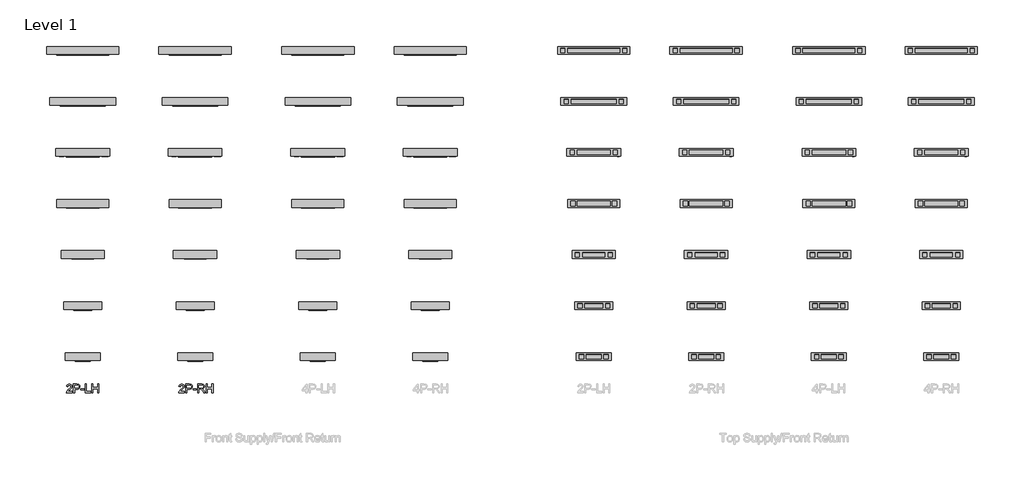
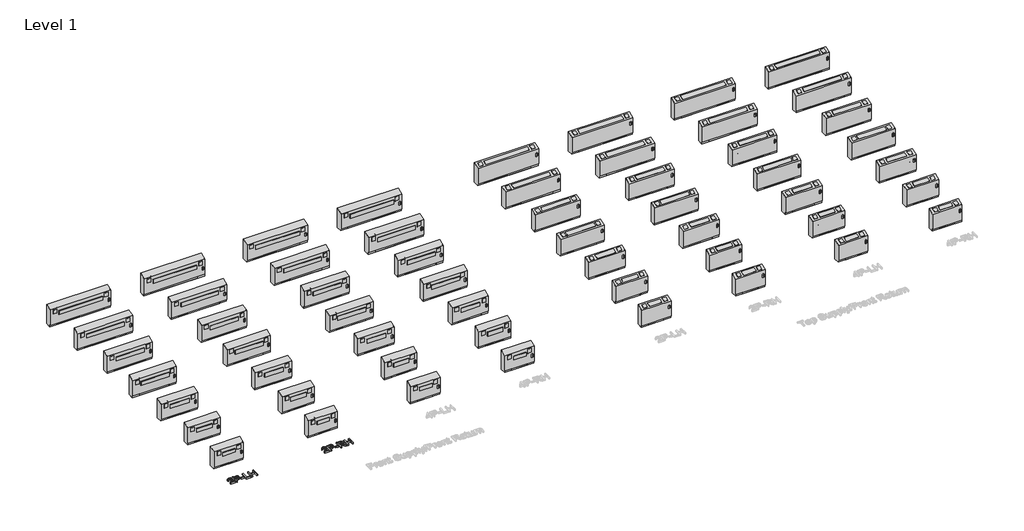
# One storey, part 1 of 3: 58 proxies.
"""IFC4 building model written with IfcOpenShell, lengths in millimetres."""

from ifc_helpers import new_model, si_unit, origin, origin_with_axes, place, context, project, spatial, polyline, outline, extrude, transform, mapped, element, save
from components import fsa_02_9984ac0a, fsa_02_ccaf9f36, fsa_02_239d5f07, fsa_02_a3f02086, fsa_02_a3f4d55f, fsa_02_dba83e95, fsa_02_3f852c0d, fsa_02_00a29073, fsa_03_38f2a992, fsa_03_0998f7d8, fsa_03_30d9e35f, fsa_03_15f4ee76, fsa_03_9eb38b45, fsa_03_bbf9bb24, fsa_03_7127c263, fsa_03_6adf4142, fsa_04_7151d022, fsa_04_9fea3f96, fsa_04_1a2f1526, fsa_04_b2a41085, fsa_04_9fa2f48e, fsa_04_fa0adc46, fsa_04_c0b1d56f, fsa_04_2e9a2c6c, fsa_06_cc0eff2d, fsa_06_d963093d, fsa_06_33f85111, fsa_06_bd2dc38c, fsa_06_9042caff, fsa_06_450f022d, fsa_06_36126f74, fsa_06_753d8a43, fsa_08_6ecd86e4, fsa_08_34fc3663, fsa_08_aebe8db0, fsa_08_8c7590da, fsa_08_331cdd5b, fsa_08_b623f187, fsa_08_8577ad06, fsa_08_1c3113d7, fsa_10_823466e5, fsa_10_5b307017, fsa_10_9be13929, fsa_10_1add2491, fsa_10_67577d47, fsa_10_9e433b3c, fsa_10_13eb66bb, fsa_10_1d2db063, fsa_12_a108baa8, fsa_12_98031c45, fsa_12_8d8f7d14, fsa_12_46d8cc71, fsa_12_32ce60d5, fsa_12_e42ce63e, fsa_12_fc2f0c06, fsa_12_ab068744

model = new_model("IFC4")

# Units and contexts
model_context = context("Model", 3, world=origin())
ifc_project = project(units=[si_unit("LENGTHUNIT", "METRE", prefix="MILLI")], contexts=[model_context])

# Site, building, storey
site = spatial("IfcSite", under=ifc_project)
building = spatial("IfcBuilding", under=site)
storey = spatial("IfcBuildingStorey", under=building, Name="Level 1", Elevation=0.0)

# Proxies
placement = place(None, origin())
element("IfcBuildingElementProxy", 1, Name="24\" Arial", ObjectType="24\" Arial", at=placement, inside=storey, context=model_context, shape_type="SweptSolid", body=[
    extrude(outline(polyline([(-19722.253563, -2259.538898), (-19722.253563, -2291.4337764), (-19889.701675, -2291.4337764), (-19886.2754673, -2269.4437528), (-19878.4107634, -2252.2582067), (-19866.9018205, -2235.5865918), (-19826.9709277, -2198.6146965), (-19792.5531145, -2168.0435801), (-19771.9024266, -2145.4773306), (-19761.5770826, -2127.1626934), (-19758.1353013, -2109.3464136), (-19761.3824117, -2093.3756138), (-19771.123743, -2080.0990592), (-19786.0978278, -2071.1519851), (-19805.0431987, -2068.1696271), (-19824.9385636, -2071.0819036), (-19840.3954322, -2079.8187331), (-19850.3703686, -2093.6948741), (-19853.8199367, -2112.025085), (-19885.7148152, -2108.0382252), (-19877.9824875, -2077.1867827), (-19861.2641515, -2054.6516806), (-19836.4319329, -2040.8689816), (-19804.3579572, -2036.2747487), (-19772.0503764, -2041.3829128), (-19747.2648788, -2056.7074052), (-19731.4965368, -2079.6007017), (-19726.2404228, -2107.4152784), (-19731.9092391, -2137.6593477), (-19750.7533812, -2168.9312793), (-19796.4465323, -2212.6310005), (-19833.1381014, -2243.3111326), (-19847.5281736, -2259.538898), (-19722.253563, -2259.538898)])), origin_with_axes(), (0.0, 0.0, 1.0), 50.8),
    extrude(outline(polyline([(-19678.3981051, -2291.4337764), (-19678.3981051, -2036.2747487), (-19583.834774, -2036.2747487), (-19545.7104271, -2038.7042414), (-19528.7117651, -2043.2439665), (-19514.7188215, -2050.6336734), (-19503.4512705, -2061.2081961), (-19494.6287858, -2075.3023685), (-19488.9288222, -2091.9272624), (-19487.0288343, -2110.0939498), (-19492.1603589, -2140.1667088), (-19507.5549328, -2165.2247456), (-19519.8834402, -2175.0906663), (-19536.3428639, -2182.1377525), (-19556.9332038, -2186.3660042), (-19581.6544601, -2187.7754214), (-19646.5032266, -2187.7754214), (-19646.5032266, -2291.4337764), (-19678.3981051, -2291.4337764)]), holes=[polyline([(-19646.5032266, -2155.8805429), (-19579.7856195, -2155.8805429), (-19551.5038327, -2152.9526928), (-19532.8154274, -2144.1691422), (-19522.3966414, -2130.0749699), (-19518.9237127, -2111.2152541), (-19520.9716505, -2096.8874767), (-19527.1154638, -2084.8023079), (-19536.5920426, -2075.707284), (-19548.6382773, -2070.3499411), (-19580.5331557, -2068.1696271), (-19646.5032266, -2068.1696271), (-19646.5032266, -2155.8805429)])]), origin_with_axes(), (0.0, 0.0, 1.0), 50.8),
    extrude(outline(polyline([(-19463.1076754, -2215.6834401), (-19463.1076754, -2183.7885616), (-19363.4361802, -2183.7885616), (-19363.4361802, -2215.6834401), (-19463.1076754, -2215.6834401)])), origin_with_axes(), (0.0, 0.0, 1.0), 50.8),
    extrude(outline(polyline([(-19323.5675821, -2291.4337764), (-19323.5675821, -2036.2747487), (-19291.6727036, -2036.2747487), (-19291.6727036, -2259.538898), (-19164.0931897, -2259.538898), (-19164.0931897, -2291.4337764), (-19323.5675821, -2291.4337764)])), origin_with_axes(), (0.0, 0.0, 1.0), 50.8),
    extrude(outline(polyline([(-19128.2114515, -2291.4337764), (-19128.2114515, -2036.2747487), (-19096.316573, -2036.2747487), (-19096.316573, -2139.9331037), (-18960.7633395, -2139.9331037), (-18960.7633395, -2036.2747487), (-18928.868461, -2036.2747487), (-18928.868461, -2291.4337764), (-18960.7633395, -2291.4337764), (-18960.7633395, -2171.8279822), (-19096.316573, -2171.8279822), (-19096.316573, -2291.4337764), (-19128.2114515, -2291.4337764)])), origin_with_axes(), (0.0, 0.0, 1.0), 50.8),
])
element("IfcBuildingElementProxy", 2, Name="24\" Arial", ObjectType="24\" Arial", at=placement, inside=storey, context=model_context, shape_type="SweptSolid", body=[
    extrude(outline(polyline([(-16368.5749359, -2259.538898), (-16368.5749359, -2291.4337764), (-16536.0230479, -2291.4337764), (-16532.5968402, -2269.4437528), (-16524.7321363, -2252.2582067), (-16513.2231934, -2235.5865918), (-16473.2923006, -2198.6146965), (-16438.8744874, -2168.0435801), (-16418.2237995, -2145.4773306), (-16407.8984555, -2127.1626934), (-16404.4566742, -2109.3464136), (-16407.7037846, -2093.3756138), (-16417.4451159, -2080.0990592), (-16432.4192007, -2071.1519851), (-16451.3645716, -2068.1696271), (-16471.2599365, -2071.0819036), (-16486.7168051, -2079.8187331), (-16496.6917415, -2093.6948741), (-16500.1413096, -2112.025085), (-16532.0361881, -2108.0382252), (-16524.3038604, -2077.1867827), (-16507.5855244, -2054.6516806), (-16482.7533058, -2040.8689816), (-16450.6793301, -2036.2747487), (-16418.3717494, -2041.3829128), (-16393.5862517, -2056.7074052), (-16377.8179097, -2079.6007017), (-16372.5617957, -2107.4152784), (-16378.230612, -2137.6593477), (-16397.0747541, -2168.9312793), (-16442.7679052, -2212.6310005), (-16479.4594744, -2243.3111326), (-16493.8495465, -2259.538898), (-16368.5749359, -2259.538898)])), origin_with_axes(), (0.0, 0.0, 1.0), 50.8),
    extrude(outline(polyline([(-16324.719478, -2291.4337764), (-16324.719478, -2036.2747487), (-16230.1561469, -2036.2747487), (-16192.0318, -2038.7042414), (-16175.033138, -2043.2439665), (-16161.0401944, -2050.6336734), (-16149.7726434, -2061.2081961), (-16140.9501587, -2075.3023685), (-16135.2501951, -2091.9272624), (-16133.3502072, -2110.0939498), (-16138.4817318, -2140.1667088), (-16153.8763057, -2165.2247456), (-16166.2048131, -2175.0906663), (-16182.6642368, -2182.1377525), (-16203.2545768, -2186.3660042), (-16227.975833, -2187.7754214), (-16292.8245995, -2187.7754214), (-16292.8245995, -2291.4337764), (-16324.719478, -2291.4337764)]), holes=[polyline([(-16292.8245995, -2155.8805429), (-16226.1069924, -2155.8805429), (-16197.8252057, -2152.9526928), (-16179.1368003, -2144.1691422), (-16168.7180143, -2130.0749699), (-16165.2450857, -2111.2152541), (-16167.2930234, -2096.8874767), (-16173.4368367, -2084.8023079), (-16182.9134155, -2075.707284), (-16194.9596502, -2070.3499411), (-16226.8545286, -2068.1696271), (-16292.8245995, -2068.1696271), (-16292.8245995, -2155.8805429)])]), origin_with_axes(), (0.0, 0.0, 1.0), 50.8),
    extrude(outline(polyline([(-16109.4290483, -2215.6834401), (-16109.4290483, -2183.7885616), (-16009.7575531, -2183.7885616), (-16009.7575531, -2215.6834401), (-16109.4290483, -2215.6834401)])), origin_with_axes(), (0.0, 0.0, 1.0), 50.8),
    extrude(outline(polyline([(-15969.888955, -2291.4337764), (-15969.888955, -2036.2747487), (-15859.9388368, -2036.2747487), (-15830.3877959, -2037.9956393), (-15808.8883429, -2043.1583113), (-15793.1745087, -2052.689398), (-15780.9803242, -2067.5155329), (-15773.1545545, -2085.9002517), (-15770.5459646, -2106.10709), (-15774.8676583, -2131.2429952), (-15787.8327395, -2152.0805672), (-15809.83055, -2167.3583385), (-15841.2504315, -2175.814842), (-15823.1226783, -2189.4573779), (-15797.2703842, -2222.2866766), (-15754.7231147, -2291.4337764), (-15791.788452, -2291.4337764), (-15824.9915188, -2238.5455893), (-15848.9749724, -2203.5359766), (-15865.8256845, -2186.9967378), (-15880.9944402, -2180.9230061), (-15899.4959615, -2179.8017018), (-15937.9940765, -2179.8017018), (-15937.9940765, -2291.4337764), (-15969.888955, -2291.4337764)]), holes=[polyline([(-15937.9940765, -2147.9068233), (-15866.6043681, -2147.9068233), (-15830.193125, -2143.3904587), (-15818.2169719, -2137.5191847), (-15809.5112897, -2128.9380919), (-15804.2084547, -2118.5582401), (-15802.440843, -2107.290689), (-15805.8125428, -2091.7325915), (-15815.9276422, -2079.1957863), (-15833.3312197, -2070.9261669), (-15858.5683538, -2068.1696271), (-15937.9940765, -2068.1696271), (-15937.9940765, -2147.9068233)])]), origin_with_axes(), (0.0, 0.0, 1.0), 50.8),
    extrude(outline(polyline([(-15714.7299272, -2291.4337764), (-15714.7299272, -2036.2747487), (-15682.8350488, -2036.2747487), (-15682.8350488, -2139.9331037), (-15547.2818152, -2139.9331037), (-15547.2818152, -2036.2747487), (-15515.3869368, -2036.2747487), (-15515.3869368, -2291.4337764), (-15547.2818152, -2291.4337764), (-15547.2818152, -2171.8279822), (-15682.8350488, -2171.8279822), (-15682.8350488, -2291.4337764), (-15714.7299272, -2291.4337764)])), origin_with_axes(), (0.0, 0.0, 1.0), 50.8),
])
fsa_02_shape = fsa_02_9984ac0a(model_context)
element("IfcBuildingElementProxy", 3, Name="Vertical_Fan_Coil_Unit_-_FSA_-_IEC_-_2-Pipe_FS-FR_LH_2022 : FSA 02", ObjectType="Vertical_Fan_Coil_Unit_-_FSA_-_IEC_-_2-Pipe_FS-FR_LH_2022 : FSA 02", at=placement, inside=storey, context=model_context, shape_type="MappedRepresentation", body=[
    mapped(fsa_02_shape, transform((-19554.2915851, -1346.7031597, 0.0), x_axis=(1.0, 0.0, 0.0), y_axis=(0.0, 1.0, 0.0), z_axis=(0.0, 0.0, 1.0))),
])
fsa_02_2_shape = fsa_02_ccaf9f36(model_context)
element("IfcBuildingElementProxy", 4, Name="Vertical_Fan_Coil_Unit_-_FSA_-_IEC_-_2-Pipe_FS-FR_RH_2022 : FSA 02", ObjectType="Vertical_Fan_Coil_Unit_-_FSA_-_IEC_-_2-Pipe_FS-FR_RH_2022 : FSA 02", at=placement, inside=storey, context=model_context, shape_type="MappedRepresentation", body=[
    mapped(fsa_02_2_shape, transform((-16201.4915851, -1346.7031597, 0.0), x_axis=(1.0, 0.0, 0.0), y_axis=(0.0, 1.0, 0.0), z_axis=(0.0, 0.0, 1.0))),
])
fsa_02_3_shape = fsa_02_239d5f07(model_context)
element("IfcBuildingElementProxy", 5, Name="Vertical_Fan_Coil_Unit_-_FSA_-_IEC_-_4-Pipe_FS-FR_LH_2022 : FSA 02", ObjectType="Vertical_Fan_Coil_Unit_-_FSA_-_IEC_-_4-Pipe_FS-FR_LH_2022 : FSA 02", at=placement, inside=storey, context=model_context, shape_type="MappedRepresentation", body=[
    mapped(fsa_02_3_shape, transform((-12543.8915851, -1346.7031597, 0.0), x_axis=(1.0, 0.0, 0.0), y_axis=(0.0, 1.0, 0.0), z_axis=(0.0, 0.0, 1.0))),
])
fsa_02_4_shape = fsa_02_a3f02086(model_context)
element("IfcBuildingElementProxy", 6, Name="Vertical_Fan_Coil_Unit_-_FSA_-_IEC_-_4-Pipe_FS-FR_RH_2022 : FSA 02", ObjectType="Vertical_Fan_Coil_Unit_-_FSA_-_IEC_-_4-Pipe_FS-FR_RH_2022 : FSA 02", at=placement, inside=storey, context=model_context, shape_type="MappedRepresentation", body=[
    mapped(fsa_02_4_shape, transform((-9191.0915851, -1346.7031597, 0.0), x_axis=(1.0, 0.0, 0.0), y_axis=(0.0, 1.0, 0.0), z_axis=(0.0, 0.0, 1.0))),
])
fsa_02_5_shape = fsa_02_a3f4d55f(model_context)
element("IfcBuildingElementProxy", 7, Name="Vertical_Fan_Coil_Unit_-_FSA_-_IEC_-_2-Pipe_TS-FR_LH_2022 : FSA 02", ObjectType="Vertical_Fan_Coil_Unit_-_FSA_-_IEC_-_2-Pipe_TS-FR_LH_2022 : FSA 02", at=placement, inside=storey, context=model_context, shape_type="MappedRepresentation", body=[
    mapped(fsa_02_5_shape, transform((-4314.2915851, -1346.7031597, 0.0), x_axis=(1.0, 0.0, 0.0), y_axis=(0.0, 1.0, 0.0), z_axis=(0.0, 0.0, 1.0))),
])
fsa_02_6_shape = fsa_02_dba83e95(model_context)
element("IfcBuildingElementProxy", 8, Name="Vertical_Fan_Coil_Unit_-_FSA_-_IEC_-_2-Pipe_TS-FR_RH_2022 : FSA 02", ObjectType="Vertical_Fan_Coil_Unit_-_FSA_-_IEC_-_2-Pipe_TS-FR_RH_2022 : FSA 02", at=placement, inside=storey, context=model_context, shape_type="MappedRepresentation", body=[
    mapped(fsa_02_6_shape, transform((-961.4915851, -1346.7031597, 0.0), x_axis=(1.0, 0.0, 0.0), y_axis=(0.0, 1.0, 0.0), z_axis=(0.0, 0.0, 1.0))),
])
fsa_02_7_shape = fsa_02_3f852c0d(model_context)
element("IfcBuildingElementProxy", 9, Name="Vertical_Fan_Coil_Unit_-_FSA_-_IEC_-_4-Pipe_TS-FR_LH_2022 : FSA 02", ObjectType="Vertical_Fan_Coil_Unit_-_FSA_-_IEC_-_4-Pipe_TS-FR_LH_2022 : FSA 02", at=placement, inside=storey, context=model_context, shape_type="MappedRepresentation", body=[
    mapped(fsa_02_7_shape, transform((2696.1084149, -1346.7031597, 0.0), x_axis=(1.0, 0.0, 0.0), y_axis=(0.0, 1.0, 0.0), z_axis=(0.0, 0.0, 1.0))),
])
fsa_02_8_shape = fsa_02_00a29073(model_context)
element("IfcBuildingElementProxy", 10, Name="Vertical_Fan_Coil_Unit_-_FSA_-_IEC_-_4-Pipe_TS-FR_RH_2022 : FSA 02", ObjectType="Vertical_Fan_Coil_Unit_-_FSA_-_IEC_-_4-Pipe_TS-FR_RH_2022 : FSA 02", at=placement, inside=storey, context=model_context, shape_type="MappedRepresentation", body=[
    mapped(fsa_02_8_shape, transform((6048.9084149, -1346.7031597, 0.0), x_axis=(1.0, 0.0, 0.0), y_axis=(0.0, 1.0, 0.0), z_axis=(0.0, 0.0, 1.0))),
])
fsa_03_shape = fsa_03_38f2a992(model_context)
element("IfcBuildingElementProxy", 11, Name="Vertical_Fan_Coil_Unit_-_FSA_-_IEC_-_2-Pipe_FS-FR_LH_2022 : FSA 03", ObjectType="Vertical_Fan_Coil_Unit_-_FSA_-_IEC_-_2-Pipe_FS-FR_LH_2022 : FSA 03", at=placement, inside=storey, context=model_context, shape_type="MappedRepresentation", body=[
    mapped(fsa_03_shape, transform((-19554.2915851, 177.2968403, 0.0), x_axis=(1.0, 0.0, 0.0), y_axis=(0.0, 1.0, 0.0), z_axis=(0.0, 0.0, 1.0))),
])
fsa_03_2_shape = fsa_03_0998f7d8(model_context)
element("IfcBuildingElementProxy", 12, Name="Vertical_Fan_Coil_Unit_-_FSA_-_IEC_-_2-Pipe_FS-FR_RH_2022 : FSA 03", ObjectType="Vertical_Fan_Coil_Unit_-_FSA_-_IEC_-_2-Pipe_FS-FR_RH_2022 : FSA 03", at=placement, inside=storey, context=model_context, shape_type="MappedRepresentation", body=[
    mapped(fsa_03_2_shape, transform((-16201.4915851, 177.2968403, 0.0), x_axis=(1.0, 0.0, 0.0), y_axis=(0.0, 1.0, 0.0), z_axis=(0.0, 0.0, 1.0))),
])
fsa_03_3_shape = fsa_03_30d9e35f(model_context)
element("IfcBuildingElementProxy", 13, Name="Vertical_Fan_Coil_Unit_-_FSA_-_IEC_-_4-Pipe_FS-FR_LH_2022 : FSA 03", ObjectType="Vertical_Fan_Coil_Unit_-_FSA_-_IEC_-_4-Pipe_FS-FR_LH_2022 : FSA 03", at=placement, inside=storey, context=model_context, shape_type="MappedRepresentation", body=[
    mapped(fsa_03_3_shape, transform((-12543.8915851, 177.2968403, 0.0), x_axis=(1.0, 0.0, 0.0), y_axis=(0.0, 1.0, 0.0), z_axis=(0.0, 0.0, 1.0))),
])
fsa_03_4_shape = fsa_03_15f4ee76(model_context)
element("IfcBuildingElementProxy", 14, Name="Vertical_Fan_Coil_Unit_-_FSA_-_IEC_-_4-Pipe_FS-FR_RH_2022 : FSA 03", ObjectType="Vertical_Fan_Coil_Unit_-_FSA_-_IEC_-_4-Pipe_FS-FR_RH_2022 : FSA 03", at=placement, inside=storey, context=model_context, shape_type="MappedRepresentation", body=[
    mapped(fsa_03_4_shape, transform((-9191.0915851, 177.2968403, 0.0), x_axis=(1.0, 0.0, 0.0), y_axis=(0.0, 1.0, 0.0), z_axis=(0.0, 0.0, 1.0))),
])
fsa_03_5_shape = fsa_03_9eb38b45(model_context)
element("IfcBuildingElementProxy", 15, Name="Vertical_Fan_Coil_Unit_-_FSA_-_IEC_-_2-Pipe_TS-FR_LH_2022 : FSA 03", ObjectType="Vertical_Fan_Coil_Unit_-_FSA_-_IEC_-_2-Pipe_TS-FR_LH_2022 : FSA 03", at=placement, inside=storey, context=model_context, shape_type="MappedRepresentation", body=[
    mapped(fsa_03_5_shape, transform((-4314.2915851, 177.2968403, 0.0), x_axis=(1.0, 0.0, 0.0), y_axis=(0.0, 1.0, 0.0), z_axis=(0.0, 0.0, 1.0))),
])
fsa_03_6_shape = fsa_03_bbf9bb24(model_context)
element("IfcBuildingElementProxy", 16, Name="Vertical_Fan_Coil_Unit_-_FSA_-_IEC_-_2-Pipe_TS-FR_RH_2022 : FSA 03", ObjectType="Vertical_Fan_Coil_Unit_-_FSA_-_IEC_-_2-Pipe_TS-FR_RH_2022 : FSA 03", at=placement, inside=storey, context=model_context, shape_type="MappedRepresentation", body=[
    mapped(fsa_03_6_shape, transform((-961.4915851, 177.2968403, 0.0), x_axis=(1.0, 0.0, 0.0), y_axis=(0.0, 1.0, 0.0), z_axis=(0.0, 0.0, 1.0))),
])
fsa_03_7_shape = fsa_03_7127c263(model_context)
element("IfcBuildingElementProxy", 17, Name="Vertical_Fan_Coil_Unit_-_FSA_-_IEC_-_4-Pipe_TS-FR_LH_2022 : FSA 03", ObjectType="Vertical_Fan_Coil_Unit_-_FSA_-_IEC_-_4-Pipe_TS-FR_LH_2022 : FSA 03", at=placement, inside=storey, context=model_context, shape_type="MappedRepresentation", body=[
    mapped(fsa_03_7_shape, transform((2696.1084149, 177.2968403, 0.0), x_axis=(1.0, 0.0, 0.0), y_axis=(0.0, 1.0, 0.0), z_axis=(0.0, 0.0, 1.0))),
])
fsa_03_8_shape = fsa_03_6adf4142(model_context)
element("IfcBuildingElementProxy", 18, Name="Vertical_Fan_Coil_Unit_-_FSA_-_IEC_-_4-Pipe_TS-FR_RH_2022 : FSA 03", ObjectType="Vertical_Fan_Coil_Unit_-_FSA_-_IEC_-_4-Pipe_TS-FR_RH_2022 : FSA 03", at=placement, inside=storey, context=model_context, shape_type="MappedRepresentation", body=[
    mapped(fsa_03_8_shape, transform((6048.9084149, 177.2968403, 0.0), x_axis=(1.0, 0.0, 0.0), y_axis=(0.0, 1.0, 0.0), z_axis=(0.0, 0.0, 1.0))),
])
fsa_04_shape = fsa_04_7151d022(model_context)
element("IfcBuildingElementProxy", 19, Name="Vertical_Fan_Coil_Unit_-_FSA_-_IEC_-_2-Pipe_FS-FR_LH_2022 : FSA 04", ObjectType="Vertical_Fan_Coil_Unit_-_FSA_-_IEC_-_2-Pipe_FS-FR_LH_2022 : FSA 04", at=placement, inside=storey, context=model_context, shape_type="MappedRepresentation", body=[
    mapped(fsa_04_shape, transform((-19554.2915851, 1701.2968403, 0.0), x_axis=(1.0, 0.0, 0.0), y_axis=(0.0, 1.0, 0.0), z_axis=(0.0, 0.0, 1.0))),
])
fsa_04_2_shape = fsa_04_9fea3f96(model_context)
element("IfcBuildingElementProxy", 20, Name="Vertical_Fan_Coil_Unit_-_FSA_-_IEC_-_2-Pipe_FS-FR_RH_2022 : FSA 04", ObjectType="Vertical_Fan_Coil_Unit_-_FSA_-_IEC_-_2-Pipe_FS-FR_RH_2022 : FSA 04", at=placement, inside=storey, context=model_context, shape_type="MappedRepresentation", body=[
    mapped(fsa_04_2_shape, transform((-16201.4915851, 1701.2968403, 0.0), x_axis=(1.0, 0.0, 0.0), y_axis=(0.0, 1.0, 0.0), z_axis=(0.0, 0.0, 1.0))),
])
fsa_04_3_shape = fsa_04_1a2f1526(model_context)
element("IfcBuildingElementProxy", 21, Name="Vertical_Fan_Coil_Unit_-_FSA_-_IEC_-_4-Pipe_FS-FR_LH_2022 : FSA 04", ObjectType="Vertical_Fan_Coil_Unit_-_FSA_-_IEC_-_4-Pipe_FS-FR_LH_2022 : FSA 04", at=placement, inside=storey, context=model_context, shape_type="MappedRepresentation", body=[
    mapped(fsa_04_3_shape, transform((-12543.8915851, 1701.2968403, 0.0), x_axis=(1.0, 0.0, 0.0), y_axis=(0.0, 1.0, 0.0), z_axis=(0.0, 0.0, 1.0))),
])
fsa_04_4_shape = fsa_04_b2a41085(model_context)
element("IfcBuildingElementProxy", 22, Name="Vertical_Fan_Coil_Unit_-_FSA_-_IEC_-_4-Pipe_FS-FR_RH_2022 : FSA 04", ObjectType="Vertical_Fan_Coil_Unit_-_FSA_-_IEC_-_4-Pipe_FS-FR_RH_2022 : FSA 04", at=placement, inside=storey, context=model_context, shape_type="MappedRepresentation", body=[
    mapped(fsa_04_4_shape, transform((-9191.0915851, 1701.2968403, 0.0), x_axis=(1.0, 0.0, 0.0), y_axis=(0.0, 1.0, 0.0), z_axis=(0.0, 0.0, 1.0))),
])
fsa_04_5_shape = fsa_04_9fa2f48e(model_context)
element("IfcBuildingElementProxy", 23, Name="Vertical_Fan_Coil_Unit_-_FSA_-_IEC_-_2-Pipe_TS-FR_LH_2022 : FSA 04", ObjectType="Vertical_Fan_Coil_Unit_-_FSA_-_IEC_-_2-Pipe_TS-FR_LH_2022 : FSA 04", at=placement, inside=storey, context=model_context, shape_type="MappedRepresentation", body=[
    mapped(fsa_04_5_shape, transform((-4314.2915851, 1701.2968403, 0.0), x_axis=(1.0, 0.0, 0.0), y_axis=(0.0, 1.0, 0.0), z_axis=(0.0, 0.0, 1.0))),
])
fsa_04_6_shape = fsa_04_fa0adc46(model_context)
element("IfcBuildingElementProxy", 24, Name="Vertical_Fan_Coil_Unit_-_FSA_-_IEC_-_2-Pipe_TS-FR_RH_2022 : FSA 04", ObjectType="Vertical_Fan_Coil_Unit_-_FSA_-_IEC_-_2-Pipe_TS-FR_RH_2022 : FSA 04", at=placement, inside=storey, context=model_context, shape_type="MappedRepresentation", body=[
    mapped(fsa_04_6_shape, transform((-961.4915851, 1701.2968403, 0.0), x_axis=(1.0, 0.0, 0.0), y_axis=(0.0, 1.0, 0.0), z_axis=(0.0, 0.0, 1.0))),
])
fsa_04_7_shape = fsa_04_c0b1d56f(model_context)
element("IfcBuildingElementProxy", 25, Name="Vertical_Fan_Coil_Unit_-_FSA_-_IEC_-_4-Pipe_TS-FR_LH_2022 : FSA 04", ObjectType="Vertical_Fan_Coil_Unit_-_FSA_-_IEC_-_4-Pipe_TS-FR_LH_2022 : FSA 04", at=placement, inside=storey, context=model_context, shape_type="MappedRepresentation", body=[
    mapped(fsa_04_7_shape, transform((2696.1084149, 1701.2968403, 0.0), x_axis=(1.0, 0.0, 0.0), y_axis=(0.0, 1.0, 0.0), z_axis=(0.0, 0.0, 1.0))),
])
fsa_04_8_shape = fsa_04_2e9a2c6c(model_context)
element("IfcBuildingElementProxy", 26, Name="Vertical_Fan_Coil_Unit_-_FSA_-_IEC_-_4-Pipe_TS-FR_RH_2022 : FSA 04", ObjectType="Vertical_Fan_Coil_Unit_-_FSA_-_IEC_-_4-Pipe_TS-FR_RH_2022 : FSA 04", at=placement, inside=storey, context=model_context, shape_type="MappedRepresentation", body=[
    mapped(fsa_04_8_shape, transform((6048.9084149, 1701.2968403, 0.0), x_axis=(1.0, 0.0, 0.0), y_axis=(0.0, 1.0, 0.0), z_axis=(0.0, 0.0, 1.0))),
])
fsa_06_shape = fsa_06_cc0eff2d(model_context)
element("IfcBuildingElementProxy", 27, Name="Vertical_Fan_Coil_Unit_-_FSA_-_IEC_-_2-Pipe_FS-FR_LH_2022 : FSA 06", ObjectType="Vertical_Fan_Coil_Unit_-_FSA_-_IEC_-_2-Pipe_FS-FR_LH_2022 : FSA 06", at=placement, inside=storey, context=model_context, shape_type="MappedRepresentation", body=[
    mapped(fsa_06_shape, transform((-19554.2915851, 3225.2968403, 0.0), x_axis=(1.0, 0.0, 0.0), y_axis=(0.0, 1.0, 0.0), z_axis=(0.0, 0.0, 1.0))),
])
fsa_06_2_shape = fsa_06_d963093d(model_context)
element("IfcBuildingElementProxy", 28, Name="Vertical_Fan_Coil_Unit_-_FSA_-_IEC_-_2-Pipe_FS-FR_RH_2022 : FSA 06", ObjectType="Vertical_Fan_Coil_Unit_-_FSA_-_IEC_-_2-Pipe_FS-FR_RH_2022 : FSA 06", at=placement, inside=storey, context=model_context, shape_type="MappedRepresentation", body=[
    mapped(fsa_06_2_shape, transform((-16201.4915851, 3225.2968403, 0.0), x_axis=(1.0, 0.0, 0.0), y_axis=(0.0, 1.0, 0.0), z_axis=(0.0, 0.0, 1.0))),
])
fsa_06_3_shape = fsa_06_33f85111(model_context)
element("IfcBuildingElementProxy", 29, Name="Vertical_Fan_Coil_Unit_-_FSA_-_IEC_-_4-Pipe_FS-FR_LH_2022 : FSA 06", ObjectType="Vertical_Fan_Coil_Unit_-_FSA_-_IEC_-_4-Pipe_FS-FR_LH_2022 : FSA 06", at=placement, inside=storey, context=model_context, shape_type="MappedRepresentation", body=[
    mapped(fsa_06_3_shape, transform((-12543.8915851, 3225.2968403, 0.0), x_axis=(1.0, 0.0, 0.0), y_axis=(0.0, 1.0, 0.0), z_axis=(0.0, 0.0, 1.0))),
])
fsa_06_4_shape = fsa_06_bd2dc38c(model_context)
element("IfcBuildingElementProxy", 30, Name="Vertical_Fan_Coil_Unit_-_FSA_-_IEC_-_4-Pipe_FS-FR_RH_2022 : FSA 06", ObjectType="Vertical_Fan_Coil_Unit_-_FSA_-_IEC_-_4-Pipe_FS-FR_RH_2022 : FSA 06", at=placement, inside=storey, context=model_context, shape_type="MappedRepresentation", body=[
    mapped(fsa_06_4_shape, transform((-9191.0915851, 3225.2968403, 0.0), x_axis=(1.0, 0.0, 0.0), y_axis=(0.0, 1.0, 0.0), z_axis=(0.0, 0.0, 1.0))),
])
fsa_06_5_shape = fsa_06_9042caff(model_context)
element("IfcBuildingElementProxy", 31, Name="Vertical_Fan_Coil_Unit_-_FSA_-_IEC_-_2-Pipe_TS-FR_LH_2022 : FSA 06", ObjectType="Vertical_Fan_Coil_Unit_-_FSA_-_IEC_-_2-Pipe_TS-FR_LH_2022 : FSA 06", at=placement, inside=storey, context=model_context, shape_type="MappedRepresentation", body=[
    mapped(fsa_06_5_shape, transform((-4314.2915851, 3225.2968403, 0.0), x_axis=(1.0, 0.0, 0.0), y_axis=(0.0, 1.0, 0.0), z_axis=(0.0, 0.0, 1.0))),
])
fsa_06_6_shape = fsa_06_450f022d(model_context)
element("IfcBuildingElementProxy", 32, Name="Vertical_Fan_Coil_Unit_-_FSA_-_IEC_-_2-Pipe_TS-FR_RH_2022 : FSA 06", ObjectType="Vertical_Fan_Coil_Unit_-_FSA_-_IEC_-_2-Pipe_TS-FR_RH_2022 : FSA 06", at=placement, inside=storey, context=model_context, shape_type="MappedRepresentation", body=[
    mapped(fsa_06_6_shape, transform((-961.4915851, 3225.2968403, 0.0), x_axis=(1.0, 0.0, 0.0), y_axis=(0.0, 1.0, 0.0), z_axis=(0.0, 0.0, 1.0))),
])
fsa_06_7_shape = fsa_06_36126f74(model_context)
element("IfcBuildingElementProxy", 33, Name="Vertical_Fan_Coil_Unit_-_FSA_-_IEC_-_4-Pipe_TS-FR_LH_2022 : FSA 06", ObjectType="Vertical_Fan_Coil_Unit_-_FSA_-_IEC_-_4-Pipe_TS-FR_LH_2022 : FSA 06", at=placement, inside=storey, context=model_context, shape_type="MappedRepresentation", body=[
    mapped(fsa_06_7_shape, transform((2696.1084149, 3225.2968403, 0.0), x_axis=(1.0, 0.0, 0.0), y_axis=(0.0, 1.0, 0.0), z_axis=(0.0, 0.0, 1.0))),
])
fsa_06_8_shape = fsa_06_753d8a43(model_context)
element("IfcBuildingElementProxy", 34, Name="Vertical_Fan_Coil_Unit_-_FSA_-_IEC_-_4-Pipe_TS-FR_RH_2022 : FSA 06", ObjectType="Vertical_Fan_Coil_Unit_-_FSA_-_IEC_-_4-Pipe_TS-FR_RH_2022 : FSA 06", at=placement, inside=storey, context=model_context, shape_type="MappedRepresentation", body=[
    mapped(fsa_06_8_shape, transform((6048.9084149, 3225.2968403, 0.0), x_axis=(1.0, 0.0, 0.0), y_axis=(0.0, 1.0, 0.0), z_axis=(0.0, 0.0, 1.0))),
])
fsa_08_shape = fsa_08_6ecd86e4(model_context)
element("IfcBuildingElementProxy", 35, Name="Vertical_Fan_Coil_Unit_-_FSA_-_IEC_-_2-Pipe_FS-FR_LH_2022 : FSA 08", ObjectType="Vertical_Fan_Coil_Unit_-_FSA_-_IEC_-_2-Pipe_FS-FR_LH_2022 : FSA 08", at=placement, inside=storey, context=model_context, shape_type="MappedRepresentation", body=[
    mapped(fsa_08_shape, transform((-19554.2915851, 4749.2968403, 0.0), x_axis=(1.0, 0.0, 0.0), y_axis=(0.0, 1.0, 0.0), z_axis=(0.0, 0.0, 1.0))),
])
fsa_08_2_shape = fsa_08_34fc3663(model_context)
element("IfcBuildingElementProxy", 36, Name="Vertical_Fan_Coil_Unit_-_FSA_-_IEC_-_2-Pipe_FS-FR_RH_2022 : FSA 08", ObjectType="Vertical_Fan_Coil_Unit_-_FSA_-_IEC_-_2-Pipe_FS-FR_RH_2022 : FSA 08", at=placement, inside=storey, context=model_context, shape_type="MappedRepresentation", body=[
    mapped(fsa_08_2_shape, transform((-16201.4915851, 4749.2968403, 0.0), x_axis=(1.0, 0.0, 0.0), y_axis=(0.0, 1.0, 0.0), z_axis=(0.0, 0.0, 1.0))),
])
fsa_08_3_shape = fsa_08_aebe8db0(model_context)
element("IfcBuildingElementProxy", 37, Name="Vertical_Fan_Coil_Unit_-_FSA_-_IEC_-_4-Pipe_FS-FR_LH_2022 : FSA 08", ObjectType="Vertical_Fan_Coil_Unit_-_FSA_-_IEC_-_4-Pipe_FS-FR_LH_2022 : FSA 08", at=placement, inside=storey, context=model_context, shape_type="MappedRepresentation", body=[
    mapped(fsa_08_3_shape, transform((-12543.8915851, 4749.2968403, 0.0), x_axis=(1.0, 0.0, 0.0), y_axis=(0.0, 1.0, 0.0), z_axis=(0.0, 0.0, 1.0))),
])
fsa_08_4_shape = fsa_08_8c7590da(model_context)
element("IfcBuildingElementProxy", 38, Name="Vertical_Fan_Coil_Unit_-_FSA_-_IEC_-_4-Pipe_FS-FR_RH_2022 : FSA 08", ObjectType="Vertical_Fan_Coil_Unit_-_FSA_-_IEC_-_4-Pipe_FS-FR_RH_2022 : FSA 08", at=placement, inside=storey, context=model_context, shape_type="MappedRepresentation", body=[
    mapped(fsa_08_4_shape, transform((-9191.0915851, 4749.2968403, 0.0), x_axis=(1.0, 0.0, 0.0), y_axis=(0.0, 1.0, 0.0), z_axis=(0.0, 0.0, 1.0))),
])
fsa_08_5_shape = fsa_08_331cdd5b(model_context)
element("IfcBuildingElementProxy", 39, Name="Vertical_Fan_Coil_Unit_-_FSA_-_IEC_-_2-Pipe_TS-FR_LH_2022 : FSA 08", ObjectType="Vertical_Fan_Coil_Unit_-_FSA_-_IEC_-_2-Pipe_TS-FR_LH_2022 : FSA 08", at=placement, inside=storey, context=model_context, shape_type="MappedRepresentation", body=[
    mapped(fsa_08_5_shape, transform((-4314.2915851, 4749.2968403, 0.0), x_axis=(1.0, 0.0, 0.0), y_axis=(0.0, 1.0, 0.0), z_axis=(0.0, 0.0, 1.0))),
])
fsa_08_6_shape = fsa_08_b623f187(model_context)
element("IfcBuildingElementProxy", 40, Name="Vertical_Fan_Coil_Unit_-_FSA_-_IEC_-_2-Pipe_TS-FR_RH_2022 : FSA 08", ObjectType="Vertical_Fan_Coil_Unit_-_FSA_-_IEC_-_2-Pipe_TS-FR_RH_2022 : FSA 08", at=placement, inside=storey, context=model_context, shape_type="MappedRepresentation", body=[
    mapped(fsa_08_6_shape, transform((-961.4915851, 4749.2968403, 0.0), x_axis=(1.0, 0.0, 0.0), y_axis=(0.0, 1.0, 0.0), z_axis=(0.0, 0.0, 1.0))),
])
fsa_08_7_shape = fsa_08_8577ad06(model_context)
element("IfcBuildingElementProxy", 41, Name="Vertical_Fan_Coil_Unit_-_FSA_-_IEC_-_4-Pipe_TS-FR_LH_2022 : FSA 08", ObjectType="Vertical_Fan_Coil_Unit_-_FSA_-_IEC_-_4-Pipe_TS-FR_LH_2022 : FSA 08", at=placement, inside=storey, context=model_context, shape_type="MappedRepresentation", body=[
    mapped(fsa_08_7_shape, transform((2696.1084149, 4749.2968403, 0.0), x_axis=(1.0, 0.0, 0.0), y_axis=(0.0, 1.0, 0.0), z_axis=(0.0, 0.0, 1.0))),
])
fsa_08_8_shape = fsa_08_1c3113d7(model_context)
element("IfcBuildingElementProxy", 42, Name="Vertical_Fan_Coil_Unit_-_FSA_-_IEC_-_4-Pipe_TS-FR_RH_2022 : FSA 08", ObjectType="Vertical_Fan_Coil_Unit_-_FSA_-_IEC_-_4-Pipe_TS-FR_RH_2022 : FSA 08", at=placement, inside=storey, context=model_context, shape_type="MappedRepresentation", body=[
    mapped(fsa_08_8_shape, transform((6048.9084149, 4749.2968403, 0.0), x_axis=(1.0, 0.0, 0.0), y_axis=(0.0, 1.0, 0.0), z_axis=(0.0, 0.0, 1.0))),
])
fsa_10_shape = fsa_10_823466e5(model_context)
element("IfcBuildingElementProxy", 43, Name="Vertical_Fan_Coil_Unit_-_FSA_-_IEC_-_2-Pipe_FS-FR_LH_2022 : FSA 10", ObjectType="Vertical_Fan_Coil_Unit_-_FSA_-_IEC_-_2-Pipe_FS-FR_LH_2022 : FSA 10", at=placement, inside=storey, context=model_context, shape_type="MappedRepresentation", body=[
    mapped(fsa_10_shape, transform((-19554.2915851, 6273.2968403, 0.0), x_axis=(1.0, 0.0, 0.0), y_axis=(0.0, 1.0, 0.0), z_axis=(0.0, 0.0, 1.0))),
])
fsa_10_2_shape = fsa_10_5b307017(model_context)
element("IfcBuildingElementProxy", 44, Name="Vertical_Fan_Coil_Unit_-_FSA_-_IEC_-_2-Pipe_FS-FR_RH_2022 : FSA 10", ObjectType="Vertical_Fan_Coil_Unit_-_FSA_-_IEC_-_2-Pipe_FS-FR_RH_2022 : FSA 10", at=placement, inside=storey, context=model_context, shape_type="MappedRepresentation", body=[
    mapped(fsa_10_2_shape, transform((-16201.4915851, 6273.2968403, 0.0), x_axis=(1.0, 0.0, 0.0), y_axis=(0.0, 1.0, 0.0), z_axis=(0.0, 0.0, 1.0))),
])
fsa_10_3_shape = fsa_10_9be13929(model_context)
element("IfcBuildingElementProxy", 45, Name="Vertical_Fan_Coil_Unit_-_FSA_-_IEC_-_4-Pipe_FS-FR_LH_2022 : FSA 10", ObjectType="Vertical_Fan_Coil_Unit_-_FSA_-_IEC_-_4-Pipe_FS-FR_LH_2022 : FSA 10", at=placement, inside=storey, context=model_context, shape_type="MappedRepresentation", body=[
    mapped(fsa_10_3_shape, transform((-12543.8915851, 6273.2968403, 0.0), x_axis=(1.0, 0.0, 0.0), y_axis=(0.0, 1.0, 0.0), z_axis=(0.0, 0.0, 1.0))),
])
fsa_10_4_shape = fsa_10_1add2491(model_context)
element("IfcBuildingElementProxy", 46, Name="Vertical_Fan_Coil_Unit_-_FSA_-_IEC_-_4-Pipe_FS-FR_RH_2022 : FSA 10", ObjectType="Vertical_Fan_Coil_Unit_-_FSA_-_IEC_-_4-Pipe_FS-FR_RH_2022 : FSA 10", at=placement, inside=storey, context=model_context, shape_type="MappedRepresentation", body=[
    mapped(fsa_10_4_shape, transform((-9191.0915851, 6273.2968403, 0.0), x_axis=(1.0, 0.0, 0.0), y_axis=(0.0, 1.0, 0.0), z_axis=(0.0, 0.0, 1.0))),
])
fsa_10_5_shape = fsa_10_67577d47(model_context)
element("IfcBuildingElementProxy", 47, Name="Vertical_Fan_Coil_Unit_-_FSA_-_IEC_-_2-Pipe_TS-FR_LH_2022 : FSA 10", ObjectType="Vertical_Fan_Coil_Unit_-_FSA_-_IEC_-_2-Pipe_TS-FR_LH_2022 : FSA 10", at=placement, inside=storey, context=model_context, shape_type="MappedRepresentation", body=[
    mapped(fsa_10_5_shape, transform((-4314.2915851, 6273.2968403, 0.0), x_axis=(1.0, 0.0, 0.0), y_axis=(0.0, 1.0, 0.0), z_axis=(0.0, 0.0, 1.0))),
])
fsa_10_6_shape = fsa_10_9e433b3c(model_context)
element("IfcBuildingElementProxy", 48, Name="Vertical_Fan_Coil_Unit_-_FSA_-_IEC_-_2-Pipe_TS-FR_RH_2022 : FSA 10", ObjectType="Vertical_Fan_Coil_Unit_-_FSA_-_IEC_-_2-Pipe_TS-FR_RH_2022 : FSA 10", at=placement, inside=storey, context=model_context, shape_type="MappedRepresentation", body=[
    mapped(fsa_10_6_shape, transform((-961.4915851, 6273.2968403, 0.0), x_axis=(1.0, 0.0, 0.0), y_axis=(0.0, 1.0, 0.0), z_axis=(0.0, 0.0, 1.0))),
])
fsa_10_7_shape = fsa_10_13eb66bb(model_context)
element("IfcBuildingElementProxy", 49, Name="Vertical_Fan_Coil_Unit_-_FSA_-_IEC_-_4-Pipe_TS-FR_LH_2022 : FSA 10", ObjectType="Vertical_Fan_Coil_Unit_-_FSA_-_IEC_-_4-Pipe_TS-FR_LH_2022 : FSA 10", at=placement, inside=storey, context=model_context, shape_type="MappedRepresentation", body=[
    mapped(fsa_10_7_shape, transform((2696.1084149, 6273.2968403, 0.0), x_axis=(1.0, 0.0, 0.0), y_axis=(0.0, 1.0, 0.0), z_axis=(0.0, 0.0, 1.0))),
])
fsa_10_8_shape = fsa_10_1d2db063(model_context)
element("IfcBuildingElementProxy", 50, Name="Vertical_Fan_Coil_Unit_-_FSA_-_IEC_-_4-Pipe_TS-FR_RH_2022 : FSA 10", ObjectType="Vertical_Fan_Coil_Unit_-_FSA_-_IEC_-_4-Pipe_TS-FR_RH_2022 : FSA 10", at=placement, inside=storey, context=model_context, shape_type="MappedRepresentation", body=[
    mapped(fsa_10_8_shape, transform((6048.9084149, 6273.2968403, 0.0), x_axis=(1.0, 0.0, 0.0), y_axis=(0.0, 1.0, 0.0), z_axis=(0.0, 0.0, 1.0))),
])
fsa_12_shape = fsa_12_a108baa8(model_context)
element("IfcBuildingElementProxy", 51, Name="Vertical_Fan_Coil_Unit_-_FSA_-_IEC_-_2-Pipe_FS-FR_LH_2022 : FSA 12", ObjectType="Vertical_Fan_Coil_Unit_-_FSA_-_IEC_-_2-Pipe_FS-FR_LH_2022 : FSA 12", at=placement, inside=storey, context=model_context, shape_type="MappedRepresentation", body=[
    mapped(fsa_12_shape, transform((-19554.2915851, 7797.2968403, 0.0), x_axis=(1.0, 0.0, 0.0), y_axis=(0.0, 1.0, 0.0), z_axis=(0.0, 0.0, 1.0))),
])
fsa_12_2_shape = fsa_12_98031c45(model_context)
element("IfcBuildingElementProxy", 52, Name="Vertical_Fan_Coil_Unit_-_FSA_-_IEC_-_2-Pipe_FS-FR_RH_2022 : FSA 12", ObjectType="Vertical_Fan_Coil_Unit_-_FSA_-_IEC_-_2-Pipe_FS-FR_RH_2022 : FSA 12", at=placement, inside=storey, context=model_context, shape_type="MappedRepresentation", body=[
    mapped(fsa_12_2_shape, transform((-16201.4915851, 7797.2968403, 0.0), x_axis=(1.0, 0.0, 0.0), y_axis=(0.0, 1.0, 0.0), z_axis=(0.0, 0.0, 1.0))),
])
fsa_12_3_shape = fsa_12_8d8f7d14(model_context)
element("IfcBuildingElementProxy", 53, Name="Vertical_Fan_Coil_Unit_-_FSA_-_IEC_-_4-Pipe_FS-FR_LH_2022 : FSA 12", ObjectType="Vertical_Fan_Coil_Unit_-_FSA_-_IEC_-_4-Pipe_FS-FR_LH_2022 : FSA 12", at=placement, inside=storey, context=model_context, shape_type="MappedRepresentation", body=[
    mapped(fsa_12_3_shape, transform((-12543.8915851, 7797.2968403, 0.0), x_axis=(1.0, 0.0, 0.0), y_axis=(0.0, 1.0, 0.0), z_axis=(0.0, 0.0, 1.0))),
])
fsa_12_4_shape = fsa_12_46d8cc71(model_context)
element("IfcBuildingElementProxy", 54, Name="Vertical_Fan_Coil_Unit_-_FSA_-_IEC_-_4-Pipe_FS-FR_RH_2022 : FSA 12", ObjectType="Vertical_Fan_Coil_Unit_-_FSA_-_IEC_-_4-Pipe_FS-FR_RH_2022 : FSA 12", at=placement, inside=storey, context=model_context, shape_type="MappedRepresentation", body=[
    mapped(fsa_12_4_shape, transform((-9191.0915851, 7797.2968403, 0.0), x_axis=(1.0, 0.0, 0.0), y_axis=(0.0, 1.0, 0.0), z_axis=(0.0, 0.0, 1.0))),
])
fsa_12_5_shape = fsa_12_32ce60d5(model_context)
element("IfcBuildingElementProxy", 55, Name="Vertical_Fan_Coil_Unit_-_FSA_-_IEC_-_2-Pipe_TS-FR_LH_2022 : FSA 12", ObjectType="Vertical_Fan_Coil_Unit_-_FSA_-_IEC_-_2-Pipe_TS-FR_LH_2022 : FSA 12", at=placement, inside=storey, context=model_context, shape_type="MappedRepresentation", body=[
    mapped(fsa_12_5_shape, transform((-4314.2915851, 7797.2968403, 0.0), x_axis=(1.0, 0.0, 0.0), y_axis=(0.0, 1.0, 0.0), z_axis=(0.0, 0.0, 1.0))),
])
fsa_12_6_shape = fsa_12_e42ce63e(model_context)
element("IfcBuildingElementProxy", 56, Name="Vertical_Fan_Coil_Unit_-_FSA_-_IEC_-_2-Pipe_TS-FR_RH_2022 : FSA 12", ObjectType="Vertical_Fan_Coil_Unit_-_FSA_-_IEC_-_2-Pipe_TS-FR_RH_2022 : FSA 12", at=placement, inside=storey, context=model_context, shape_type="MappedRepresentation", body=[
    mapped(fsa_12_6_shape, transform((-961.4915851, 7797.2968403, 0.0), x_axis=(1.0, 0.0, 0.0), y_axis=(0.0, 1.0, 0.0), z_axis=(0.0, 0.0, 1.0))),
])
fsa_12_7_shape = fsa_12_fc2f0c06(model_context)
element("IfcBuildingElementProxy", 57, Name="Vertical_Fan_Coil_Unit_-_FSA_-_IEC_-_4-Pipe_TS-FR_LH_2022 : FSA 12", ObjectType="Vertical_Fan_Coil_Unit_-_FSA_-_IEC_-_4-Pipe_TS-FR_LH_2022 : FSA 12", at=placement, inside=storey, context=model_context, shape_type="MappedRepresentation", body=[
    mapped(fsa_12_7_shape, transform((2696.1084149, 7797.2968403, 0.0), x_axis=(1.0, 0.0, 0.0), y_axis=(0.0, 1.0, 0.0), z_axis=(0.0, 0.0, 1.0))),
])
fsa_12_8_shape = fsa_12_ab068744(model_context)
element("IfcBuildingElementProxy", 58, Name="Vertical_Fan_Coil_Unit_-_FSA_-_IEC_-_4-Pipe_TS-FR_RH_2022 : FSA 12", ObjectType="Vertical_Fan_Coil_Unit_-_FSA_-_IEC_-_4-Pipe_TS-FR_RH_2022 : FSA 12", at=placement, inside=storey, context=model_context, shape_type="MappedRepresentation", body=[
    mapped(fsa_12_8_shape, transform((6048.9084149, 7797.2968403, 0.0), x_axis=(1.0, 0.0, 0.0), y_axis=(0.0, 1.0, 0.0), z_axis=(0.0, 0.0, 1.0))),
])

save(model, "model.ifc")
